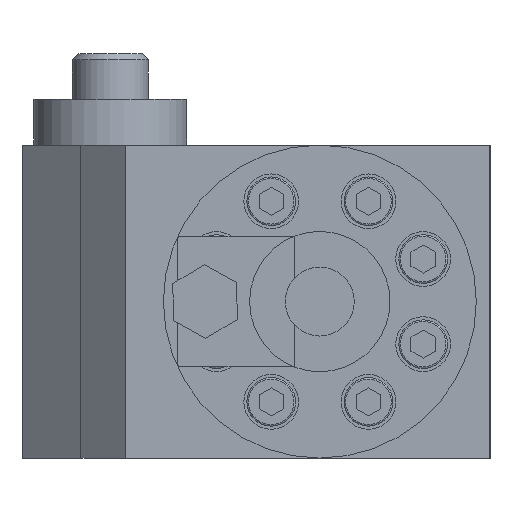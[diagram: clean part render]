
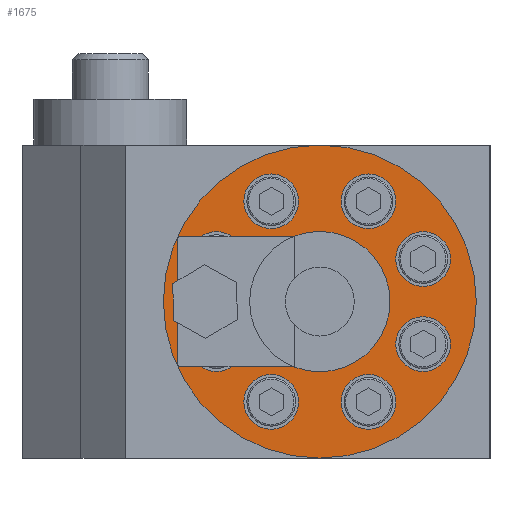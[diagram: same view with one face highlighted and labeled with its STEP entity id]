
A CAD part, left-side view. The second image highlights one B-rep face of the part: STEP entity #1675.
In plain terms, the highlighted planar face has unit normal (-1, 0, 0).
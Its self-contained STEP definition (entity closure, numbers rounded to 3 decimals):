
#1675=ADVANCED_FACE('',(#4757,#4758,#4759,#4760,#4761,#4762,#4763,#4764,
#4765),#2346,.F.);
#2346=PLANE('',#13222);
#4757=FACE_BOUND('',#5625,.T.);
#4758=FACE_BOUND('',#5626,.T.);
#4759=FACE_BOUND('',#5627,.T.);
#4760=FACE_BOUND('',#5628,.T.);
#4761=FACE_BOUND('',#5629,.T.);
#4762=FACE_BOUND('',#5630,.T.);
#4763=FACE_BOUND('',#5631,.T.);
#4764=FACE_BOUND('',#5632,.T.);
#4765=FACE_BOUND('',#5633,.T.);
#5625=EDGE_LOOP('',(#7549));
#5626=EDGE_LOOP('',(#7550));
#5627=EDGE_LOOP('',(#7551));
#5628=EDGE_LOOP('',(#7552));
#5629=EDGE_LOOP('',(#7553));
#5630=EDGE_LOOP('',(#7554));
#5631=EDGE_LOOP('',(#7555));
#5632=EDGE_LOOP('',(#7556));
#5633=EDGE_LOOP('',(#7557));
#7549=ORIENTED_EDGE('',*,*,#11209,.T.);
#7550=ORIENTED_EDGE('',*,*,#11210,.T.);
#7551=ORIENTED_EDGE('',*,*,#11211,.T.);
#7552=ORIENTED_EDGE('',*,*,#11212,.T.);
#7553=ORIENTED_EDGE('',*,*,#11213,.T.);
#7554=ORIENTED_EDGE('',*,*,#11214,.T.);
#7555=ORIENTED_EDGE('',*,*,#11215,.T.);
#7556=ORIENTED_EDGE('',*,*,#11216,.T.);
#7557=ORIENTED_EDGE('',*,*,#11207,.F.);
#9918=VERTEX_POINT('',#18893);
#9920=VERTEX_POINT('',#18898);
#9921=VERTEX_POINT('',#18900);
#9922=VERTEX_POINT('',#18902);
#9923=VERTEX_POINT('',#18904);
#9924=VERTEX_POINT('',#18906);
#9925=VERTEX_POINT('',#18908);
#9926=VERTEX_POINT('',#18910);
#9927=VERTEX_POINT('',#18912);
#11207=EDGE_CURVE('',#9918,#9918,#12420,.T.);
#11209=EDGE_CURVE('',#9920,#9920,#12422,.T.);
#11210=EDGE_CURVE('',#9921,#9921,#12423,.T.);
#11211=EDGE_CURVE('',#9922,#9922,#12424,.T.);
#11212=EDGE_CURVE('',#9923,#9923,#12425,.T.);
#11213=EDGE_CURVE('',#9924,#9924,#12426,.T.);
#11214=EDGE_CURVE('',#9925,#9925,#12427,.T.);
#11215=EDGE_CURVE('',#9926,#9926,#12428,.T.);
#11216=EDGE_CURVE('',#9927,#9927,#12429,.T.);
#12420=CIRCLE('',#13211,51.5);
#12422=CIRCLE('',#13214,9.);
#12423=CIRCLE('',#13215,9.);
#12424=CIRCLE('',#13216,9.);
#12425=CIRCLE('',#13217,9.);
#12426=CIRCLE('',#13218,9.);
#12427=CIRCLE('',#13219,9.);
#12428=CIRCLE('',#13220,9.);
#12429=CIRCLE('',#13221,9.);
#13211=AXIS2_PLACEMENT_3D('',#18892,#15369,#15370);
#13214=AXIS2_PLACEMENT_3D('',#18897,#15375,#15376);
#13215=AXIS2_PLACEMENT_3D('',#18899,#15377,#15378);
#13216=AXIS2_PLACEMENT_3D('',#18901,#15379,#15380);
#13217=AXIS2_PLACEMENT_3D('',#18903,#15381,#15382);
#13218=AXIS2_PLACEMENT_3D('',#18905,#15383,#15384);
#13219=AXIS2_PLACEMENT_3D('',#18907,#15385,#15386);
#13220=AXIS2_PLACEMENT_3D('',#18909,#15387,#15388);
#13221=AXIS2_PLACEMENT_3D('',#18911,#15389,#15390);
#13222=AXIS2_PLACEMENT_3D('',#18913,#15391,#15392);
#15369=DIRECTION('',(1.,0.,0.));
#15370=DIRECTION('',(0.,0.,-1.));
#15375=DIRECTION('',(1.,0.,0.));
#15376=DIRECTION('',(0.,0.,1.));
#15377=DIRECTION('',(1.,0.,0.));
#15378=DIRECTION('',(0.,0.,1.));
#15379=DIRECTION('',(1.,0.,0.));
#15380=DIRECTION('',(0.,0.,1.));
#15381=DIRECTION('',(1.,0.,0.));
#15382=DIRECTION('',(0.,0.,1.));
#15383=DIRECTION('',(1.,0.,0.));
#15384=DIRECTION('',(0.,0.,1.));
#15385=DIRECTION('',(1.,0.,0.));
#15386=DIRECTION('',(0.,0.,1.));
#15387=DIRECTION('',(1.,0.,0.));
#15388=DIRECTION('',(0.,0.,1.));
#15389=DIRECTION('',(1.,0.,0.));
#15390=DIRECTION('',(0.,0.,1.));
#15391=DIRECTION('',(1.,0.,0.));
#15392=DIRECTION('',(0.,1.,0.));
#18892=CARTESIAN_POINT('',(-115.529,-18.705,51.5));
#18893=CARTESIAN_POINT('',(-115.529,-18.705,0.));
#18897=CARTESIAN_POINT('',(-115.529,-2.705,18.5));
#18898=CARTESIAN_POINT('',(-115.529,-2.705,27.5));
#18899=CARTESIAN_POINT('',(-115.529,-2.705,84.5));
#18900=CARTESIAN_POINT('',(-115.529,-2.705,93.5));
#18901=CARTESIAN_POINT('',(-115.529,-34.705,84.5));
#18902=CARTESIAN_POINT('',(-115.529,-34.705,93.5));
#18903=CARTESIAN_POINT('',(-115.529,-34.705,18.5));
#18904=CARTESIAN_POINT('',(-115.529,-34.705,27.5));
#18905=CARTESIAN_POINT('',(-115.529,15.295,37.5));
#18906=CARTESIAN_POINT('',(-115.529,15.295,46.5));
#18907=CARTESIAN_POINT('',(-115.529,15.295,65.5));
#18908=CARTESIAN_POINT('',(-115.529,15.295,74.5));
#18909=CARTESIAN_POINT('',(-115.529,-52.705,65.5));
#18910=CARTESIAN_POINT('',(-115.529,-52.705,74.5));
#18911=CARTESIAN_POINT('',(-115.529,-52.705,37.5));
#18912=CARTESIAN_POINT('',(-115.529,-52.705,46.5));
#18913=CARTESIAN_POINT('',(-115.529,-18.705,51.5));
